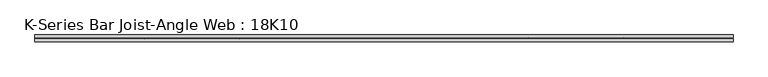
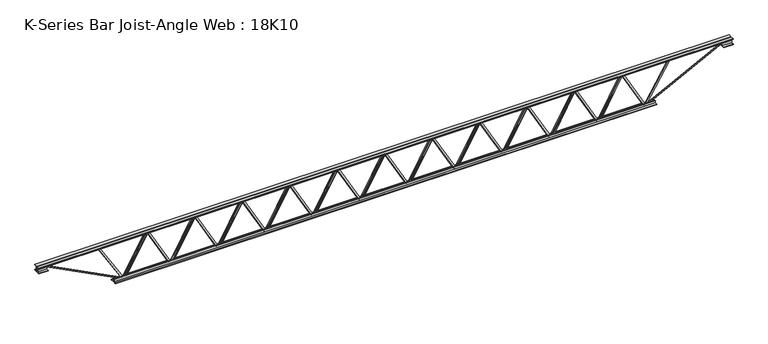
"""IFC4 building model written with IfcOpenShell, lengths in millimetres: beam geometry, K-Series Bar Joist-Angle Web : 18K10."""

import ifcopenshell
import ifcopenshell.guid

model = None  # the IFC model being written
_history = None  # IfcOwnerHistory: only IFC2X3 demands one
_inside = {}  # id of a spatial element -> (the spatial element, [elements in it])
_under = {}  # id of a project, library or spatial element -> (it, [spatial elements below it])
_declared = {}  # id of a project -> (the project, [libraries it declares])
_typed = {}  # id of a type object -> (the type object, [elements of that type])
_made_of = {}  # id of a material, layer set ... -> (it, [elements and type objects made of it])


def new_model(schema):
    """Start an empty IFC model of exactly this schema.

    Asked for "IFC4X3", IfcOpenShell would pick the latest addendum, in which some entities
    have other attributes; the version numbers below select the first issue.
    IFC2X3 requires an IfcOwnerHistory on every rooted entity: one is made here for all.
    """
    global model, _history
    if schema == "IFC4X3":
        model = ifcopenshell.file(schema_version=(4, 3, 0, 0))
    else:
        model = ifcopenshell.file(schema=schema)
    _inside.clear()
    _under.clear()
    _declared.clear()
    _typed.clear()
    _made_of.clear()
    _history = None
    if model.schema == "IFC2X3":
        org = make("IfcOrganization", Name="unknown")
        user = make(
            "IfcPersonAndOrganization",
            ThePerson=make("IfcPerson", FamilyName="unknown"),
            TheOrganization=org,
        )
        app = make(
            "IfcApplication",
            ApplicationDeveloper=org,
            Version="unknown",
            ApplicationFullName="unknown",
            ApplicationIdentifier="unknown",
        )
        _history = make(
            "IfcOwnerHistory",
            OwningUser=user,
            OwningApplication=app,
            ChangeAction="ADDED",
            CreationDate=0,
        )
    return model


def make(cls, **values):
    """One entity of the class cls with the attributes given. An attribute that is None is left unset."""
    return model.create_entity(
        cls, **{name: value for name, value in values.items() if value is not None}
    )


def rooted(cls, **values):
    """An entity with a GlobalId (a new one), such as an element, a storey or a relation."""
    return make(cls, GlobalId=ifcopenshell.guid.new(), OwnerHistory=_history, **values)


def si_unit(unit_type, name, prefix=None):
    """IfcSIUnit, for example si_unit("LENGTHUNIT", "METRE", prefix="MILLI")."""
    return make("IfcSIUnit", UnitType=unit_type, Prefix=prefix, Name=name)


def assignment(units):
    """IfcUnitAssignment: the units of a project."""
    return None if units is None else make("IfcUnitAssignment", Units=units)


def point(xyz):
    """IfcCartesianPoint."""
    return None if xyz is None else make("IfcCartesianPoint", Coordinates=xyz)


def direction(xyz):
    """IfcDirection."""
    return None if xyz is None else make("IfcDirection", DirectionRatios=xyz)


def frame(location, z_axis=None, x_axis=None):
    """IfcAxis2Placement3D, a coordinate frame: its origin and axes. An axis left out is left unset."""
    return make(
        "IfcAxis2Placement3D",
        Location=point(location),
        Axis=direction(z_axis),
        RefDirection=direction(x_axis),
    )


def origin():
    """The frame at (0, 0, 0) with its axes left unset."""
    return frame((0.0, 0.0, 0.0))


def place(relative_to, where):
    """IfcLocalPlacement: puts the frame where relative to a parent placement (None: the world)."""
    return make(
        "IfcLocalPlacement", PlacementRelTo=relative_to, RelativePlacement=where
    )


def context(
    kind, dimensions, precision=None, world=None, true_north=None, identifier=None
):
    """IfcGeometricRepresentationContext, for example the 3D "Model" context."""
    return make(
        "IfcGeometricRepresentationContext",
        ContextIdentifier=identifier,
        ContextType=kind,
        CoordinateSpaceDimension=dimensions,
        Precision=precision,
        WorldCoordinateSystem=world,
        TrueNorth=true_north,
    )


def project(units=None, contexts=None):
    """IfcProject with its units and contexts."""
    return rooted(
        "IfcProject",
        Name="project",
        RepresentationContexts=contexts,
        UnitsInContext=assignment(units),
    )


def spatial(cls, under=None, at=None, **own):
    """A site, building, storey or space (cls), placed at a placement, below another one or the project."""
    s = rooted(cls, ObjectPlacement=at, **own)
    if under is not None:
        _under.setdefault(under.id(), (under, []))[1].append(s)
    return s


def polyline(points):
    """IfcPolyline through the points."""
    return make("IfcPolyline", Points=[point(p) for p in points])


def outline(outer, holes=None, kind="AREA"):
    """IfcArbitraryClosedProfileDef: a profile drawn as a closed curve; with holes, ...WithVoids."""
    if holes is None:
        return make("IfcArbitraryClosedProfileDef", ProfileType=kind, OuterCurve=outer)
    return make(
        "IfcArbitraryProfileDefWithVoids",
        ProfileType=kind,
        OuterCurve=outer,
        InnerCurves=holes,
    )


def extrude(swept, where, along, depth):
    """IfcExtrudedAreaSolid: the profile swept, set in the frame where, extruded along a direction by depth."""
    return make(
        "IfcExtrudedAreaSolid",
        SweptArea=swept,
        Position=where,
        ExtrudedDirection=direction(along),
        Depth=depth,
    )


def faces_of(points, faces, orient=None, outer=None):
    """IfcFace entities. A face is a list of loops; a loop is a list of indices into points, from 0.

    orient and outer hold one flag for each loop. By default every Orientation is true, the
    first loop of a face is its IfcFaceOuterBound and the others are IfcFaceBound.
    """
    made = []
    for i, loops in enumerate(faces):
        bounds = []
        for j, loop in enumerate(loops):
            is_outer = j == 0 if outer is None else outer[i][j]
            bounds.append(
                make(
                    "IfcFaceOuterBound" if is_outer else "IfcFaceBound",
                    Bound=make("IfcPolyLoop", Polygon=[points[k] for k in loop]),
                    Orientation=True if orient is None else orient[i][j],
                )
            )
        made.append(make("IfcFace", Bounds=bounds))
    return made


def faceted_brep(points, faces, orient=None, outer=None, voids=None):
    """IfcFacetedBrep: a solid bounded by flat faces; with voids (closed shells), ...WithVoids."""
    shared = [point(p) for p in points]
    hull = make("IfcClosedShell", CfsFaces=faces_of(shared, faces, orient, outer))
    if voids is None:
        return make("IfcFacetedBrep", Outer=hull)
    return make(
        "IfcFacetedBrepWithVoids",
        Outer=hull,
        Voids=[
            make(cls, CfsFaces=faces_of(shared, fs, o, b)) for cls, fs, o, b in voids
        ],
    )


def shape(context_of_items, identifier, shape_type, items):
    """IfcShapeRepresentation: the items that make up one representation, for example the "Body"."""
    return make(
        "IfcShapeRepresentation",
        ContextOfItems=context_of_items,
        RepresentationIdentifier=identifier,
        RepresentationType=shape_type,
        Items=items,
    )


def source(mapping_origin, context_of_items, identifier, shape_type, items):
    """IfcRepresentationMap: a shape defined once, which mapped items show again and again."""
    return make(
        "IfcRepresentationMap",
        MappingOrigin=mapping_origin,
        MappedRepresentation=shape(context_of_items, identifier, shape_type, items),
    )


def transform(
    local_origin,
    x_axis=None,
    y_axis=None,
    z_axis=None,
    scale=None,
    scale2=None,
    scale3=None,
    uniform=True,
):
    """IfcCartesianTransformationOperator3D, or its non-uniform kind. x_axis, y_axis, z_axis: its Axis1, 2, 3."""
    if uniform:
        return make(
            "IfcCartesianTransformationOperator3D",
            Axis1=direction(x_axis),
            Axis2=direction(y_axis),
            LocalOrigin=point(local_origin),
            Scale=scale,
            Axis3=direction(z_axis),
        )
    return make(
        "IfcCartesianTransformationOperator3DnonUniform",
        Axis1=direction(x_axis),
        Axis2=direction(y_axis),
        LocalOrigin=point(local_origin),
        Scale=scale,
        Axis3=direction(z_axis),
        Scale2=scale2,
        Scale3=scale3,
    )


def mapped(mapping_source, mapping_target):
    """IfcMappedItem: shows the shape of a source again, moved by a transform."""
    return make(
        "IfcMappedItem", MappingSource=mapping_source, MappingTarget=mapping_target
    )


def made_of(thing, what):
    """Note that an element or type object is made of a material, layer set ...; save() writes the relation."""
    if what is not None:
        _made_of.setdefault(what.id(), (what, []))[1].append(thing)
    return thing


def element(
    cls,
    number,
    at=None,
    inside=None,
    cuts=None,
    type_object=None,
    material=None,
    context=None,
    identifier="Body",
    shape_type=None,
    held_by="IfcProductDefinitionShape",
    body=None,
    shapes=None,
    **own,
):
    """One element of the class cls, such as IfcWall. Its Tag is "e" and its number.

    at: its placement. inside: the storey or other place that contains it. cuts: it is an
    opening in that element (IfcRelVoidsElement). A single representation is given by context,
    identifier, shape_type and body (its items); several are given by shapes. held_by: the class
    of the entity that holds the representations. save() writes the other relations.
    """
    e = rooted(cls, Tag="e%d" % number, ObjectPlacement=at, **own)
    if body is not None:
        shapes = [shape(context, identifier, shape_type, body)]
    if shapes is not None:
        e.Representation = make(held_by, Representations=shapes)
    if inside is not None:
        _inside.setdefault(inside.id(), (inside, []))[1].append(e)
    if cuts is not None:
        rooted(
            "IfcRelVoidsElement", RelatingBuildingElement=cuts, RelatedOpeningElement=e
        )
    if type_object is not None:
        _typed.setdefault(type_object.id(), (type_object, []))[1].append(e)
    return made_of(e, material)


def aggregate(whole, parts):
    """IfcRelAggregates: a whole, such as a stair, and the parts it consists of."""
    return rooted("IfcRelAggregates", RelatingObject=whole, RelatedObjects=parts)


def save(model, path):
    """Write the relations noted so far, then the file.

    IfcRelAggregates (storeys below a building ...), IfcRelContainedInSpatialStructure (elements
    in a storey), IfcRelDefinesByType, IfcRelAssociatesMaterial and IfcRelDeclares: one each for
    every whole, place, type object, material and project.
    """
    for whole, parts in _under.values():
        aggregate(whole, parts)
    for where, things in _inside.values():
        rooted(
            "IfcRelContainedInSpatialStructure",
            RelatedElements=things,
            RelatingStructure=where,
        )
    for kind, things in _typed.values():
        rooted("IfcRelDefinesByType", RelatedObjects=things, RelatingType=kind)
    for what, things in _made_of.values():
        rooted("IfcRelAssociatesMaterial", RelatedObjects=things, RelatingMaterial=what)
    for by, libraries in _declared.values():
        rooted("IfcRelDeclares", RelatingContext=by, RelatedDefinitions=libraries)
    model.write(path)


def k_series_bar_joist_angle_web_18k10_634fa7f5(model_context):
    return source(origin(), model_context, "Body", "SolidModel", [
        extrude(outline(polyline([(-4.75, 4.7625), (-4.75, 0.0), (-17.45, 0.0), (-17.45, 4.7625), (-4.75, 4.7625)])), frame((2241.547063, 0.0, -190.4), z_axis=(-0.48574766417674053, 0.0, 0.8740990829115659), x_axis=(0.0, -1.0, 0.0)), (0.0, 0.0, 1.0), 435.6485523),
        extrude(outline(polyline([(-225.325, 2272.9090909), (-206.275, 2272.9090909), (-206.275, 2272.1628647), (225.325, 2032.3174101), (225.325, 2014.0136364), (206.275, 2014.0136364), (206.275, 2021.1098626), (-225.325, 2260.9553172), (-225.325, 2272.9090909)])), frame((0.0, 0.0, 0.0), z_axis=(0.0, 1.0, 0.0), x_axis=(0.0, 0.0, 1.0)), (0.0, 0.0, 1.0), 4.75),
        faceted_brep([(1767.8181818, 0.0, -206.275), (1767.8181818, 0.0, -225.325), (1767.8181818, -4.75, -225.325), (1767.8181818, -4.75, -206.275), (1768.5644081, 0.0, -206.275), (2008.4098626, 0.0, 225.325), (2026.7136364, 0.0, 225.325), (2026.7136364, 0.0, 206.275), (2019.6174101, 0.0, 206.275), (1779.7719556, 0.0, -225.325), (1779.7719556, -4.75, -225.325), (1799.1802097, -4.75, -190.4), (1795.0173129, -4.75, -188.0866267), (2006.6325795, -4.75, 192.7133733), (2010.7954764, -4.75, 190.4), (2019.6174101, -4.75, 206.275), (2026.7136364, -4.75, 206.275), (2026.7136364, -4.75, 225.325), (2008.4098626, -4.75, 225.325), (1768.5644081, -4.75, -206.275), (2010.7954764, -17.4625, 190.4), (1799.1802097, -17.4625, -190.4), (1795.0173129, -17.4625, -188.0866267), (2006.6325795, -17.4625, 192.7133733)], [[[0, 1, 2, 3]], [[1, 0, 4, 5, 6, 7, 8, 9]], [[2, 1, 9, 10]], [[3, 2, 10, 11, 12, 13, 14, 15, 16, 17, 18, 19]], [[0, 3, 19, 4]], [[9, 8, 15, 14, 20, 21, 11, 10]], [[5, 4, 19, 18]], [[7, 6, 17, 16]], [[8, 7, 16, 15]], [[6, 5, 18, 17]], [[21, 22, 12, 11]], [[20, 14, 13, 23]], [[22, 21, 20, 23]], [[12, 22, 23, 13]]]),
        extrude(outline(polyline([(-4.75, 4.7625), (-4.75, 0.0), (-17.45, 0.0), (-17.45, 4.7625), (-4.75, 4.7625)])), frame((1736.4561539, 0.0, -190.4), z_axis=(-0.48574766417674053, 0.0, 0.8740990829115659), x_axis=(0.0, -1.0, 0.0)), (0.0, 0.0, 1.0), 435.6485523),
        extrude(outline(polyline([(-225.325, 1767.8181818), (-206.275, 1767.8181818), (-206.275, 1767.0719556), (225.325, 1527.226501), (225.325, 1508.9227273), (206.275, 1508.9227273), (206.275, 1516.0189535), (-225.325, 1755.8644081), (-225.325, 1767.8181818)])), frame((0.0, 0.0, 0.0), z_axis=(0.0, 1.0, 0.0), x_axis=(0.0, 0.0, 1.0)), (0.0, 0.0, 1.0), 4.75),
        faceted_brep([(1262.7272727, 0.0, -206.275), (1262.7272727, 0.0, -225.325), (1262.7272727, -4.75, -225.325), (1262.7272727, -4.75, -206.275), (1263.473499, 0.0, -206.275), (1503.3189535, 0.0, 225.325), (1521.6227273, 0.0, 225.325), (1521.6227273, 0.0, 206.275), (1514.526501, 0.0, 206.275), (1274.6810465, 0.0, -225.325), (1274.6810465, -4.75, -225.325), (1294.0893007, -4.75, -190.4), (1289.9264038, -4.75, -188.0866267), (1501.5416704, -4.75, 192.7133733), (1505.7045673, -4.75, 190.4), (1514.526501, -4.75, 206.275), (1521.6227273, -4.75, 206.275), (1521.6227273, -4.75, 225.325), (1503.3189535, -4.75, 225.325), (1263.473499, -4.75, -206.275), (1505.7045673, -17.4625, 190.4), (1294.0893007, -17.4625, -190.4), (1289.9264038, -17.4625, -188.0866267), (1501.5416704, -17.4625, 192.7133733)], [[[0, 1, 2, 3]], [[1, 0, 4, 5, 6, 7, 8, 9]], [[2, 1, 9, 10]], [[3, 2, 10, 11, 12, 13, 14, 15, 16, 17, 18, 19]], [[0, 3, 19, 4]], [[9, 8, 15, 14, 20, 21, 11, 10]], [[5, 4, 19, 18]], [[7, 6, 17, 16]], [[8, 7, 16, 15]], [[6, 5, 18, 17]], [[21, 22, 12, 11]], [[20, 14, 13, 23]], [[22, 21, 20, 23]], [[12, 22, 23, 13]]]),
        extrude(outline(polyline([(-4.75, 4.7625), (-4.75, 0.0), (-17.45, 0.0), (-17.45, 4.7625), (-4.75, 4.7625)])), frame((1231.3652448, 0.0, -190.4), z_axis=(-0.48574766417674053, 0.0, 0.8740990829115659), x_axis=(0.0, -1.0, 0.0)), (0.0, 0.0, 1.0), 435.6485523),
        extrude(outline(polyline([(-225.325, 1262.7272727), (-206.275, 1262.7272727), (-206.275, 1261.9810465), (225.325, 1022.1355919), (225.325, 1003.8318182), (206.275, 1003.8318182), (206.275, 1010.9280444), (-225.325, 1250.773499), (-225.325, 1262.7272727)])), frame((0.0, 0.0, 0.0), z_axis=(0.0, 1.0, 0.0), x_axis=(0.0, 0.0, 1.0)), (0.0, 0.0, 1.0), 4.75),
        faceted_brep([(757.6363636, 0.0, -206.275), (757.6363636, 0.0, -225.325), (757.6363636, -4.75, -225.325), (757.6363636, -4.75, -206.275), (758.3825899, 0.0, -206.275), (998.2280444, 0.0, 225.325), (1016.5318182, 0.0, 225.325), (1016.5318182, 0.0, 206.275), (1009.4355919, 0.0, 206.275), (769.5901374, 0.0, -225.325), (769.5901374, -4.75, -225.325), (788.9983916, -4.75, -190.4), (784.8354947, -4.75, -188.0866267), (996.4507613, -4.75, 192.7133733), (1000.6136582, -4.75, 190.4), (1009.4355919, -4.75, 206.275), (1016.5318182, -4.75, 206.275), (1016.5318182, -4.75, 225.325), (998.2280444, -4.75, 225.325), (758.3825899, -4.75, -206.275), (1000.6136582, -17.4625, 190.4), (788.9983916, -17.4625, -190.4), (784.8354947, -17.4625, -188.0866267), (996.4507613, -17.4625, 192.7133733)], [[[0, 1, 2, 3]], [[1, 0, 4, 5, 6, 7, 8, 9]], [[2, 1, 9, 10]], [[3, 2, 10, 11, 12, 13, 14, 15, 16, 17, 18, 19]], [[0, 3, 19, 4]], [[9, 8, 15, 14, 20, 21, 11, 10]], [[5, 4, 19, 18]], [[7, 6, 17, 16]], [[8, 7, 16, 15]], [[6, 5, 18, 17]], [[21, 22, 12, 11]], [[20, 14, 13, 23]], [[22, 21, 20, 23]], [[12, 22, 23, 13]]]),
        extrude(outline(polyline([(-4.75, 4.7625), (-4.75, 0.0), (-17.45, 0.0), (-17.45, 4.7625), (-4.75, 4.7625)])), frame((726.2743357, 0.0, -190.4), z_axis=(-0.48574766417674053, 0.0, 0.8740990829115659), x_axis=(0.0, -1.0, 0.0)), (0.0, 0.0, 1.0), 435.6485523),
        extrude(outline(polyline([(-225.325, 757.6363636), (-206.275, 757.6363636), (-206.275, 756.8901374), (225.325, 517.0446828), (225.325, 498.7409091), (206.275, 498.7409091), (206.275, 505.8371353), (-225.325, 745.6825899), (-225.325, 757.6363636)])), frame((0.0, 0.0, 0.0), z_axis=(0.0, 1.0, 0.0), x_axis=(0.0, 0.0, 1.0)), (0.0, 0.0, 1.0), 4.75),
        faceted_brep([(252.5454545, 0.0, -206.275), (252.5454545, 0.0, -225.325), (252.5454545, -4.75, -225.325), (252.5454545, -4.75, -206.275), (253.2916808, 0.0, -206.275), (493.1371353, 0.0, 225.325), (511.4409091, 0.0, 225.325), (511.4409091, 0.0, 206.275), (504.3446828, 0.0, 206.275), (264.4992283, 0.0, -225.325), (264.4992283, -4.75, -225.325), (283.9074825, -4.75, -190.4), (279.7445856, -4.75, -188.0866267), (491.3598522, -4.75, 192.7133733), (495.5227491, -4.75, 190.4), (504.3446828, -4.75, 206.275), (511.4409091, -4.75, 206.275), (511.4409091, -4.75, 225.325), (493.1371353, -4.75, 225.325), (253.2916808, -4.75, -206.275), (495.5227491, -17.4625, 190.4), (283.9074825, -17.4625, -190.4), (279.7445856, -17.4625, -188.0866267), (491.3598522, -17.4625, 192.7133733)], [[[0, 1, 2, 3]], [[1, 0, 4, 5, 6, 7, 8, 9]], [[2, 1, 9, 10]], [[3, 2, 10, 11, 12, 13, 14, 15, 16, 17, 18, 19]], [[0, 3, 19, 4]], [[9, 8, 15, 14, 20, 21, 11, 10]], [[5, 4, 19, 18]], [[7, 6, 17, 16]], [[8, 7, 16, 15]], [[6, 5, 18, 17]], [[21, 22, 12, 11]], [[20, 14, 13, 23]], [[22, 21, 20, 23]], [[12, 22, 23, 13]]]),
        extrude(outline(polyline([(-4.75, 4.7625), (-4.75, 0.0), (-17.45, 0.0), (-17.45, 4.7625), (-4.75, 4.7625)])), frame((221.1834266, 0.0, -190.4), z_axis=(-0.48574766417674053, 0.0, 0.8740990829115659), x_axis=(0.0, -1.0, 0.0)), (0.0, 0.0, 1.0), 435.6485523),
        extrude(outline(polyline([(-225.325, 252.5454545), (-206.275, 252.5454545), (-206.275, 251.7992283), (225.325, 11.9537738), (225.325, -6.35), (206.275, -6.35), (206.275, 0.7462262), (-225.325, 240.5916808), (-225.325, 252.5454545)])), frame((0.0, 0.0, 0.0), z_axis=(0.0, 1.0, 0.0), x_axis=(0.0, 0.0, 1.0)), (0.0, 0.0, 1.0), 4.75),
        faceted_brep([(-252.5454545, 0.0, -206.275), (-252.5454545, 0.0, -225.325), (-252.5454545, -4.75, -225.325), (-252.5454545, -4.75, -206.275), (-251.7992283, 0.0, -206.275), (-11.9537738, 0.0, 225.325), (6.35, 0.0, 225.325), (6.35, 0.0, 206.275), (-0.7462262, 0.0, 206.275), (-240.5916808, 0.0, -225.325), (-240.5916808, -4.75, -225.325), (-221.1834266, -4.75, -190.4), (-225.3463235, -4.75, -188.0866267), (-13.7310568, -4.75, 192.7133733), (-9.56816, -4.75, 190.4), (-0.7462262, -4.75, 206.275), (6.35, -4.75, 206.275), (6.35, -4.75, 225.325), (-11.9537738, -4.75, 225.325), (-251.7992283, -4.75, -206.275), (-9.56816, -17.4625, 190.4), (-221.1834266, -17.4625, -190.4), (-225.3463235, -17.4625, -188.0866267), (-13.7310568, -17.4625, 192.7133733)], [[[0, 1, 2, 3]], [[1, 0, 4, 5, 6, 7, 8, 9]], [[2, 1, 9, 10]], [[3, 2, 10, 11, 12, 13, 14, 15, 16, 17, 18, 19]], [[0, 3, 19, 4]], [[9, 8, 15, 14, 20, 21, 11, 10]], [[5, 4, 19, 18]], [[7, 6, 17, 16]], [[8, 7, 16, 15]], [[6, 5, 18, 17]], [[21, 22, 12, 11]], [[20, 14, 13, 23]], [[22, 21, 20, 23]], [[12, 22, 23, 13]]]),
        extrude(outline(polyline([(-4.75, 4.7625), (-4.75, 0.0), (-17.45, 0.0), (-17.45, 4.7625), (-4.75, 4.7625)])), frame((-283.9074825, 0.0, -190.4), z_axis=(-0.48574766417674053, 0.0, 0.8740990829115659), x_axis=(0.0, -1.0, 0.0)), (0.0, 0.0, 1.0), 435.6485523),
        extrude(outline(polyline([(-225.325, -252.5454545), (-206.275, -252.5454545), (-206.275, -253.2916808), (225.325, -493.1371353), (225.325, -511.4409091), (206.275, -511.4409091), (206.275, -504.3446828), (-225.325, -264.4992283), (-225.325, -252.5454545)])), frame((0.0, 0.0, 0.0), z_axis=(0.0, 1.0, 0.0), x_axis=(0.0, 0.0, 1.0)), (0.0, 0.0, 1.0), 4.75),
        faceted_brep([(-757.6363636, 0.0, -206.275), (-757.6363636, 0.0, -225.325), (-757.6363636, -4.75, -225.325), (-757.6363636, -4.75, -206.275), (-756.8901374, 0.0, -206.275), (-517.0446828, 0.0, 225.325), (-498.7409091, 0.0, 225.325), (-498.7409091, 0.0, 206.275), (-505.8371353, 0.0, 206.275), (-745.6825899, 0.0, -225.325), (-745.6825899, -4.75, -225.325), (-726.2743357, -4.75, -190.4), (-730.4372326, -4.75, -188.0866267), (-518.8219659, -4.75, 192.7133733), (-514.6590691, -4.75, 190.4), (-505.8371353, -4.75, 206.275), (-498.7409091, -4.75, 206.275), (-498.7409091, -4.75, 225.325), (-517.0446828, -4.75, 225.325), (-756.8901374, -4.75, -206.275), (-514.6590691, -17.4625, 190.4), (-726.2743357, -17.4625, -190.4), (-730.4372326, -17.4625, -188.0866267), (-518.8219659, -17.4625, 192.7133733)], [[[0, 1, 2, 3]], [[1, 0, 4, 5, 6, 7, 8, 9]], [[2, 1, 9, 10]], [[3, 2, 10, 11, 12, 13, 14, 15, 16, 17, 18, 19]], [[0, 3, 19, 4]], [[9, 8, 15, 14, 20, 21, 11, 10]], [[5, 4, 19, 18]], [[7, 6, 17, 16]], [[8, 7, 16, 15]], [[6, 5, 18, 17]], [[21, 22, 12, 11]], [[20, 14, 13, 23]], [[22, 21, 20, 23]], [[12, 22, 23, 13]]]),
        extrude(outline(polyline([(-4.75, 4.7625), (-4.75, 0.0), (-17.45, 0.0), (-17.45, 4.7625), (-4.75, 4.7625)])), frame((-788.9983916, 0.0, -190.4), z_axis=(-0.48574766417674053, 0.0, 0.8740990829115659), x_axis=(0.0, -1.0, 0.0)), (0.0, 0.0, 1.0), 435.6485523),
        extrude(outline(polyline([(-225.325, -757.6363636), (-206.275, -757.6363636), (-206.275, -758.3825899), (225.325, -998.2280444), (225.325, -1016.5318182), (206.275, -1016.5318182), (206.275, -1009.4355919), (-225.325, -769.5901374), (-225.325, -757.6363636)])), frame((0.0, 0.0, 0.0), z_axis=(0.0, 1.0, 0.0), x_axis=(0.0, 0.0, 1.0)), (0.0, 0.0, 1.0), 4.75),
        faceted_brep([(-1262.7272727, 0.0, -206.275), (-1262.7272727, 0.0, -225.325), (-1262.7272727, -4.75, -225.325), (-1262.7272727, -4.75, -206.275), (-1261.9810465, 0.0, -206.275), (-1022.1355919, 0.0, 225.325), (-1003.8318182, 0.0, 225.325), (-1003.8318182, 0.0, 206.275), (-1010.9280444, 0.0, 206.275), (-1250.773499, 0.0, -225.325), (-1250.773499, -4.75, -225.325), (-1231.3652448, -4.75, -190.4), (-1235.5281417, -4.75, -188.0866267), (-1023.912875, -4.75, 192.7133733), (-1019.7499781, -4.75, 190.4), (-1010.9280444, -4.75, 206.275), (-1003.8318182, -4.75, 206.275), (-1003.8318182, -4.75, 225.325), (-1022.1355919, -4.75, 225.325), (-1261.9810465, -4.75, -206.275), (-1019.7499781, -17.4625, 190.4), (-1231.3652448, -17.4625, -190.4), (-1235.5281417, -17.4625, -188.0866267), (-1023.912875, -17.4625, 192.7133733)], [[[0, 1, 2, 3]], [[1, 0, 4, 5, 6, 7, 8, 9]], [[2, 1, 9, 10]], [[3, 2, 10, 11, 12, 13, 14, 15, 16, 17, 18, 19]], [[0, 3, 19, 4]], [[9, 8, 15, 14, 20, 21, 11, 10]], [[5, 4, 19, 18]], [[7, 6, 17, 16]], [[8, 7, 16, 15]], [[6, 5, 18, 17]], [[21, 22, 12, 11]], [[20, 14, 13, 23]], [[22, 21, 20, 23]], [[12, 22, 23, 13]]]),
        extrude(outline(polyline([(-4.75, 4.7625), (-4.75, 0.0), (-17.45, 0.0), (-17.45, 4.7625), (-4.75, 4.7625)])), frame((-1294.0893007, 0.0, -190.4), z_axis=(-0.48574766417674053, 0.0, 0.8740990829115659), x_axis=(0.0, -1.0, 0.0)), (0.0, 0.0, 1.0), 435.6485523),
        extrude(outline(polyline([(-225.325, -1262.7272727), (-206.275, -1262.7272727), (-206.275, -1263.473499), (225.325, -1503.3189535), (225.325, -1521.6227273), (206.275, -1521.6227273), (206.275, -1514.526501), (-225.325, -1274.6810465), (-225.325, -1262.7272727)])), frame((0.0, 0.0, 0.0), z_axis=(0.0, 1.0, 0.0), x_axis=(0.0, 0.0, 1.0)), (0.0, 0.0, 1.0), 4.75),
        faceted_brep([(-1767.8181818, 0.0, -206.275), (-1767.8181818, 0.0, -225.325), (-1767.8181818, -4.75, -225.325), (-1767.8181818, -4.75, -206.275), (-1767.0719556, 0.0, -206.275), (-1527.226501, 0.0, 225.325), (-1508.9227273, 0.0, 225.325), (-1508.9227273, 0.0, 206.275), (-1516.0189535, 0.0, 206.275), (-1755.8644081, 0.0, -225.325), (-1755.8644081, -4.75, -225.325), (-1736.4561539, -4.75, -190.4), (-1740.6190508, -4.75, -188.0866267), (-1529.0037841, -4.75, 192.7133733), (-1524.8408872, -4.75, 190.4), (-1516.0189535, -4.75, 206.275), (-1508.9227273, -4.75, 206.275), (-1508.9227273, -4.75, 225.325), (-1527.226501, -4.75, 225.325), (-1767.0719556, -4.75, -206.275), (-1524.8408872, -17.4625, 190.4), (-1736.4561539, -17.4625, -190.4), (-1740.6190508, -17.4625, -188.0866267), (-1529.0037841, -17.4625, 192.7133733)], [[[0, 1, 2, 3]], [[1, 0, 4, 5, 6, 7, 8, 9]], [[2, 1, 9, 10]], [[3, 2, 10, 11, 12, 13, 14, 15, 16, 17, 18, 19]], [[0, 3, 19, 4]], [[9, 8, 15, 14, 20, 21, 11, 10]], [[5, 4, 19, 18]], [[7, 6, 17, 16]], [[8, 7, 16, 15]], [[6, 5, 18, 17]], [[21, 22, 12, 11]], [[20, 14, 13, 23]], [[22, 21, 20, 23]], [[12, 22, 23, 13]]]),
        extrude(outline(polyline([(-4.75, 4.7625), (-4.75, 0.0), (-17.45, 0.0), (-17.45, 4.7625), (-4.75, 4.7625)])), frame((-1799.1802097, 0.0, -190.4), z_axis=(-0.48574766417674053, 0.0, 0.8740990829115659), x_axis=(0.0, -1.0, 0.0)), (0.0, 0.0, 1.0), 435.6485523),
        extrude(outline(polyline([(-225.325, -1767.8181818), (-206.275, -1767.8181818), (-206.275, -1768.5644081), (225.325, -2008.4098626), (225.325, -2026.7136364), (206.275, -2026.7136364), (206.275, -2019.6174101), (-225.325, -1779.7719556), (-225.325, -1767.8181818)])), frame((0.0, 0.0, 0.0), z_axis=(0.0, 1.0, 0.0), x_axis=(0.0, 0.0, 1.0)), (0.0, 0.0, 1.0), 4.75),
        faceted_brep([(-2272.9090909, 0.0, -206.275), (-2272.9090909, 0.0, -225.325), (-2272.9090909, -4.75, -225.325), (-2272.9090909, -4.75, -206.275), (-2272.1628647, 0.0, -206.275), (-2032.3174101, 0.0, 225.325), (-2014.0136364, 0.0, 225.325), (-2014.0136364, 0.0, 206.275), (-2021.1098626, 0.0, 206.275), (-2260.9553172, 0.0, -225.325), (-2260.9553172, -4.75, -225.325), (-2241.547063, -4.75, -190.4), (-2245.7099599, -4.75, -188.0866267), (-2034.0946932, -4.75, 192.7133733), (-2029.9317963, -4.75, 190.4), (-2021.1098626, -4.75, 206.275), (-2014.0136364, -4.75, 206.275), (-2014.0136364, -4.75, 225.325), (-2032.3174101, -4.75, 225.325), (-2272.1628647, -4.75, -206.275), (-2029.9317963, -17.4625, 190.4), (-2241.547063, -17.4625, -190.4), (-2245.7099599, -17.4625, -188.0866267), (-2034.0946932, -17.4625, 192.7133733)], [[[0, 1, 2, 3]], [[1, 0, 4, 5, 6, 7, 8, 9]], [[2, 1, 9, 10]], [[3, 2, 10, 11, 12, 13, 14, 15, 16, 17, 18, 19]], [[0, 3, 19, 4]], [[9, 8, 15, 14, 20, 21, 11, 10]], [[5, 4, 19, 18]], [[7, 6, 17, 16]], [[8, 7, 16, 15]], [[6, 5, 18, 17]], [[21, 22, 12, 11]], [[20, 14, 13, 23]], [[22, 21, 20, 23]], [[12, 22, 23, 13]]]),
        extrude(outline(polyline([(-4.75, 4.7625), (-4.75, 0.0), (-17.45, 0.0), (-17.45, 4.7625), (-4.75, 4.7625)])), frame((2746.6379721, 0.0, -190.4), z_axis=(-0.48574766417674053, 0.0, 0.8740990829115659), x_axis=(0.0, -1.0, 0.0)), (0.0, 0.0, 1.0), 435.6485523),
        extrude(outline(polyline([(-225.325, 2778.0), (-206.275, 2778.0), (-206.275, 2777.2537738), (225.325, 2537.4083192), (225.325, 2519.1045455), (206.275, 2519.1045455), (206.275, 2526.2007717), (-225.325, 2766.0462262), (-225.325, 2778.0)])), frame((0.0, 0.0, 0.0), z_axis=(0.0, 1.0, 0.0), x_axis=(0.0, 0.0, 1.0)), (0.0, 0.0, 1.0), 4.75),
        faceted_brep([(2272.9090909, 0.0, -206.275), (2272.9090909, 0.0, -225.325), (2272.9090909, -4.75, -225.325), (2272.9090909, -4.75, -206.275), (2273.6553172, 0.0, -206.275), (2513.5007717, 0.0, 225.325), (2531.8045455, 0.0, 225.325), (2531.8045455, 0.0, 206.275), (2524.7083192, 0.0, 206.275), (2284.8628647, 0.0, -225.325), (2284.8628647, -4.75, -225.325), (2304.2711188, -4.75, -190.4), (2300.108222, -4.75, -188.0866267), (2511.7234886, -4.75, 192.7133733), (2515.8863855, -4.75, 190.4), (2524.7083192, -4.75, 206.275), (2531.8045455, -4.75, 206.275), (2531.8045455, -4.75, 225.325), (2513.5007717, -4.75, 225.325), (2273.6553172, -4.75, -206.275), (2515.8863855, -17.4625, 190.4), (2304.2711188, -17.4625, -190.4), (2300.108222, -17.4625, -188.0866267), (2511.7234886, -17.4625, 192.7133733)], [[[0, 1, 2, 3]], [[1, 0, 4, 5, 6, 7, 8, 9]], [[2, 1, 9, 10]], [[3, 2, 10, 11, 12, 13, 14, 15, 16, 17, 18, 19]], [[0, 3, 19, 4]], [[9, 8, 15, 14, 20, 21, 11, 10]], [[5, 4, 19, 18]], [[7, 6, 17, 16]], [[8, 7, 16, 15]], [[6, 5, 18, 17]], [[21, 22, 12, 11]], [[20, 14, 13, 23]], [[22, 21, 20, 23]], [[12, 22, 23, 13]]]),
        extrude(outline(polyline([(-4.75, 4.7625), (-4.75, 0.0), (-17.45, 0.0), (-17.45, 4.7625), (-4.75, 4.7625)])), frame((-2304.2711188, 0.0, -190.4), z_axis=(-0.48574766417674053, 0.0, 0.8740990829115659), x_axis=(0.0, -1.0, 0.0)), (0.0, 0.0, 1.0), 435.6485523),
        extrude(outline(polyline([(-225.325, -2272.9090909), (-206.275, -2272.9090909), (-206.275, -2273.6553172), (225.325, -2513.5007717), (225.325, -2531.8045455), (206.275, -2531.8045455), (206.275, -2524.7083192), (-225.325, -2284.8628647), (-225.325, -2272.9090909)])), frame((0.0, 0.0, 0.0), z_axis=(0.0, 1.0, 0.0), x_axis=(0.0, 0.0, 1.0)), (0.0, 0.0, 1.0), 4.75),
        faceted_brep([(-2778.0, 0.0, -206.275), (-2778.0, 0.0, -225.325), (-2778.0, -4.75, -225.325), (-2778.0, -4.75, -206.275), (-2777.2537738, 0.0, -206.275), (-2537.4083192, 0.0, 225.325), (-2519.1045455, 0.0, 225.325), (-2519.1045455, 0.0, 206.275), (-2526.2007717, 0.0, 206.275), (-2766.0462262, 0.0, -225.325), (-2766.0462262, -4.75, -225.325), (-2746.6379721, -4.75, -190.4), (-2750.800869, -4.75, -188.0866267), (-2539.1856023, -4.75, 192.7133733), (-2535.0227054, -4.75, 190.4), (-2526.2007717, -4.75, 206.275), (-2519.1045455, -4.75, 206.275), (-2519.1045455, -4.75, 225.325), (-2537.4083192, -4.75, 225.325), (-2777.2537738, -4.75, -206.275), (-2535.0227054, -17.4625, 190.4), (-2746.6379721, -17.4625, -190.4), (-2750.800869, -17.4625, -188.0866267), (-2539.1856023, -17.4625, 192.7133733)], [[[0, 1, 2, 3]], [[1, 0, 4, 5, 6, 7, 8, 9]], [[2, 1, 9, 10]], [[3, 2, 10, 11, 12, 13, 14, 15, 16, 17, 18, 19]], [[0, 3, 19, 4]], [[9, 8, 15, 14, 20, 21, 11, 10]], [[5, 4, 19, 18]], [[7, 6, 17, 16]], [[8, 7, 16, 15]], [[6, 5, 18, 17]], [[21, 22, 12, 11]], [[20, 14, 13, 23]], [[22, 21, 20, 23]], [[12, 22, 23, 13]]]),
        extrude(outline(polyline([(4.75, 228.5), (36.75, 228.5), (36.75, 222.0), (11.25, 222.0), (11.25, 196.5), (4.75, 196.5), (4.75, 228.5)])), frame((-3692.0, 0.0, 0.0), z_axis=(1.0, 0.0, 0.0), x_axis=(0.0, 1.0, 0.0)), (0.0, 0.0, 1.0), 7384.0),
        extrude(outline(polyline([(-4.75, 228.5), (-4.75, 196.5), (-11.25, 196.5), (-11.25, 222.0), (-36.75, 222.0), (-36.75, 228.5), (-4.75, 228.5)])), frame((-3692.0, 0.0, 0.0), z_axis=(1.0, 0.0, 0.0), x_axis=(0.0, 1.0, 0.0)), (0.0, 0.0, 1.0), 7384.0),
        extrude(outline(polyline([(4.75, -228.5), (4.75, -196.5), (11.25, -196.5), (11.25, -222.0), (36.75, -222.0), (36.75, -228.5), (4.75, -228.5)])), frame((-2878.0, 0.0, 0.0), z_axis=(1.0, 0.0, 0.0), x_axis=(0.0, 1.0, 0.0)), (0.0, 0.0, 1.0), 5756.0),
        extrude(outline(polyline([(-4.75, -228.5), (-36.75, -228.5), (-36.75, -222.0), (-11.25, -222.0), (-11.25, -196.5), (-4.75, -196.5), (-4.75, -228.5)])), frame((-2878.0, 0.0, 0.0), z_axis=(1.0, 0.0, 0.0), x_axis=(0.0, 1.0, 0.0)), (0.0, 0.0, 1.0), 5756.0),
        extrude(outline(polyline([(4.75, 165.0), (4.75, 196.5), (11.25, 196.5), (11.25, 171.5), (36.75, 171.5), (36.75, 165.0), (4.75, 165.0)])), frame((3592.0, 0.0, 0.0), z_axis=(1.0, 0.0, 0.0), x_axis=(0.0, 1.0, 0.0)), (0.0, 0.0, 1.0), 100.0),
        extrude(outline(polyline([(-4.75, 165.0), (-36.75, 165.0), (-36.75, 171.5), (-11.25, 171.5), (-11.25, 196.5), (-4.75, 196.5), (-4.75, 165.0)])), frame((3592.0, 0.0, 0.0), z_axis=(1.0, 0.0, 0.0), x_axis=(0.0, 1.0, 0.0)), (0.0, 0.0, 1.0), 100.0),
        extrude(outline(polyline([(-4.75, 165.0), (-36.75, 165.0), (-36.75, 171.5), (-11.25, 171.5), (-11.25, 196.5), (-4.75, 196.5), (-4.75, 165.0)])), frame((-3692.0, 0.0, 0.0), z_axis=(1.0, 0.0, 0.0), x_axis=(0.0, 1.0, 0.0)), (0.0, 0.0, 1.0), 100.0),
        extrude(outline(polyline([(36.75, 165.0), (4.75, 165.0), (4.75, 196.5), (11.25, 196.5), (11.25, 171.5), (36.75, 171.5), (36.75, 165.0)])), frame((-3692.0, 0.0, 0.0), z_axis=(1.0, 0.0, 0.0), x_axis=(0.0, 1.0, 0.0)), (0.0, 0.0, 1.0), 100.0),
        extrude(outline(polyline([(219.4566712, -3050.5025974), (200.4066712, -3050.5025974), (200.4066712, -3042.9142825), (-226.8138715, -2785.7479093), (-216.9893086, -2769.4267431), (219.4566712, -3032.1463891), (219.4566712, -3050.5025974)])), frame((0.0, 0.0, 0.0), z_axis=(0.0, 1.0, 0.0), x_axis=(0.0, 0.0, 1.0)), (0.0, 0.0, 1.0), 4.7625),
        extrude(outline(polyline([(-4.7625, -10.5646146), (-4.7625, 8.4853853), (0.0, 8.4853853), (0.0, -10.5646146), (-4.7625, -10.5646146)])), frame((2778.0, 0.0, -222.15), z_axis=(0.516532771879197, 0.0, 0.856267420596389), x_axis=(0.0, -1.0, 0.0)), (0.0, 0.0, 1.0), 488.9243593),
        extrude(outline(polyline([(-226.3740718, -2780.172491), (-217.9259282, -2775.827509), (201.25, -3590.8500948), (201.25, -3692.0), (191.75, -3692.0), (191.75, -3593.1499052), (-226.3740718, -2780.172491)])), frame((0.0, -4.75, 0.0), z_axis=(0.0, 1.0, 0.0), x_axis=(0.0, 0.0, 1.0)), (0.0, 0.0, 1.0), 9.5),
        extrude(outline(polyline([(0.0, -9.5), (0.0, 0.0), (915.3490168, 0.0), (915.3490168, -9.5), (0.0, -9.5)])), frame((3594.172491, -4.75, 192.2759282), z_axis=(-0.4573665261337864, 0.0, 0.889278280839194), x_axis=(-0.889278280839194, 0.0, -0.4573665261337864)), (0.0, 0.0, 1.0), 9.5),
    ])


if __name__ == "__main__":
    model = new_model("IFC4")
    model_context = context("Model", 3, world=origin())
    ifc_project = project(units=[si_unit("LENGTHUNIT", "METRE", prefix="MILLI")], contexts=[model_context])
    site = spatial("IfcSite", under=ifc_project)
    building = spatial("IfcBuilding", under=site)
    placement = place(None, origin())
    k_series_bar_joist_angle_web_18k10_shape = k_series_bar_joist_angle_web_18k10_634fa7f5(model_context)
    element("IfcBeam", 1, ObjectType="K-Series Bar Joist-Angle Web : 18K10", at=placement, inside=building, context=model_context, shape_type="MappedRepresentation", body=[
        mapped(k_series_bar_joist_angle_web_18k10_shape, transform((0.0, 0.0, 0.0), x_axis=(1.0, 0.0, 0.0), y_axis=(0.0, 1.0, 0.0), z_axis=(0.0, 0.0, 1.0))),
    ])
    save(model, "model.ifc")
